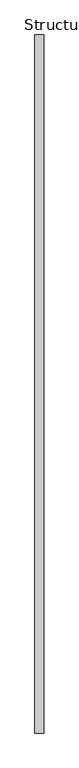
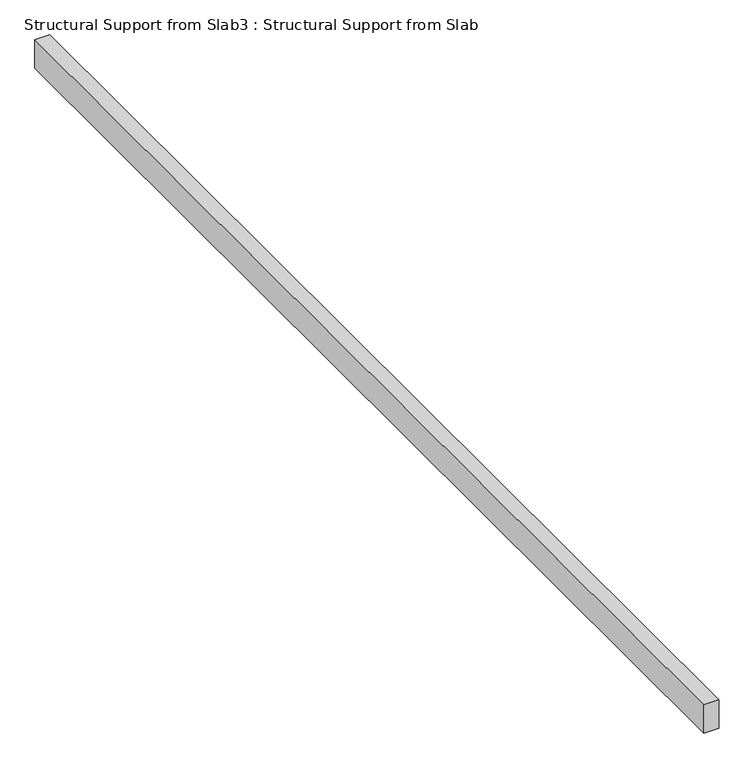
"""IFC4 building model written with IfcOpenShell, lengths in millimetres: beam geometry, Structural Support from Slab3 : Structural Support from Slab."""

from ifc_helpers import new_model, si_unit, frame, origin, place, context, project, spatial, polyline, outline, extrude, source, transform, mapped, element, save


def structural_support_from_slab3_structural_support_from_slab_d8c653cb(model_context):
    return source(origin(), model_context, "Body", "SweptSolid", [
        extrude(outline(polyline([(-11306.2639562, 156.8566481), (-11458.6639562, 156.8566481), (-11458.6639562, 11995.9222731), (-11306.2639562, 11995.9222731), (-11306.2639562, 156.8566481)])), frame((0.0, 0.0, 4114.8), z_axis=(0.0, 0.0, 1.0), x_axis=(1.0, 0.0, 0.0)), (0.0, 0.0, 1.0), 304.8),
    ])


if __name__ == "__main__":
    model = new_model("IFC4")
    model_context = context("Model", 3, world=origin())
    ifc_project = project(units=[si_unit("LENGTHUNIT", "METRE", prefix="MILLI")], contexts=[model_context])
    site = spatial("IfcSite", under=ifc_project)
    building = spatial("IfcBuilding", under=site)
    placement = place(None, origin())
    structural_support_from_slab3_structural_support_from_slab_shape = structural_support_from_slab3_structural_support_from_slab_d8c653cb(model_context)
    element("IfcBeam", 1, ObjectType="Structural Support from Slab3 : Structural Support from Slab", at=placement, inside=building, context=model_context, shape_type="MappedRepresentation", body=[
        mapped(structural_support_from_slab3_structural_support_from_slab_shape, transform((0.0, 0.0, 0.0), x_axis=(1.0, 0.0, 0.0), y_axis=(0.0, 1.0, 0.0), z_axis=(0.0, 0.0, 1.0))),
    ])
    save(model, "model.ifc")
